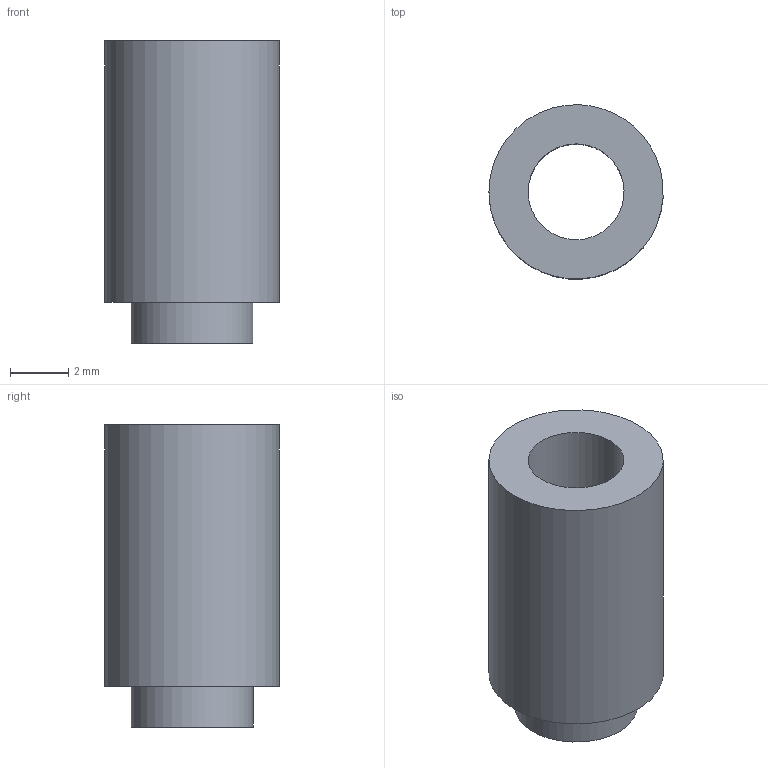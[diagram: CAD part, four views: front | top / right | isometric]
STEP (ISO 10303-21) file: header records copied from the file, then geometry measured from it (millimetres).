
FILE_DESCRIPTION(('FreeCAD Model'),'2;1');
FILE_NAME('Open CASCADE Shape Model','2026-03-20T17:23:25',('Author'),( ''),'Open CASCADE STEP processor 7.8','FreeCAD','Unknown');
FILE_SCHEMA(('AP242_MANAGED_MODEL_BASED_3D_ENGINEERING_MIM_LF. {1 0 10303 442 1 1 4 }'));
Length unit declared in the file: millimetre
Products named in the file (1): 1_transformed
Bounding box: 5.99 x 5.99 x 10.4 mm (x, y, z)
Volume: 186.5 mm3; surface area: 336.2 mm2
Topology: 1 solids, 1 shells, 6 faces, 9 edges, 6 vertices
Faces by surface type: bspline 6
Entity records: 201 total; most frequent: CARTESIAN_POINT 109, ORIENTED_EDGE 18, FACE_BOUND 9, EDGE_LOOP 9, EDGE_CURVE 9, ADVANCED_FACE 6, VERTEX_POINT 6, B_SPLINE_SURFACE_WITH_KNOTS 3
